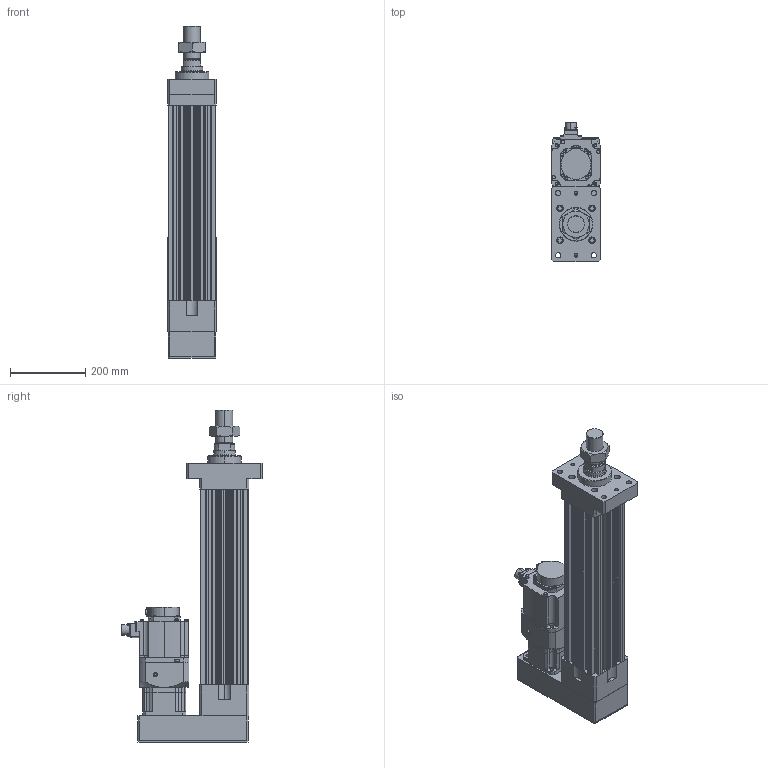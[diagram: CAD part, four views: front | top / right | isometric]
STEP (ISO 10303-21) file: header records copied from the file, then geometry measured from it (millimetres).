
FILE_DESCRIPTION (( 'STEP AP203' ), '1' );
FILE_NAME ('HES130NS(FS)(HS)-P300-W015G00-M-FMB.STEP', '2023-01-29T05:21:22', ( 'tms' ), ( '' ), 'SwSTEP 2.0', 'SolidWorks 2013', '' );
FILE_SCHEMA (( 'CONFIG_CONTROL_DESIGN' ));
Length unit declared in the file: millimetre
Products named in the file (8): M45X1.5P; HG-SR152; HES130-P300-G120-FMB; HES130 ROD M ST300; HES130NS(FS)(HS)-P300-W015G00-M-FMB; AB1151; AB115-003[HG-SR152]; P0401400706
Assembly tree (7 placements, depth 3):
  HES130NS(FS)(HS)-P300-W015G00-M-FMB
    HES130-P300-G120-FMB
    HES130 ROD M ST300
    M45X1.5P
    AB115-003[HG-SR152]
      AB1151
      P0401400706
    HG-SR152
Bounding box: 130 x 372.49 x 882 mm (x, y, z)
Volume: 10837428.1 mm3; surface area: 1246931.5 mm2
Topology: 4 solids, 11 shells, 1082 faces, 2768 edges, 1799 vertices
Faces by surface type: cylinder 513, plane 489, cone 68, bspline 8, torus 4
Entity records: 34626 total; most frequent: CARTESIAN_POINT 6632, DIRECTION 5993, ORIENTED_EDGE 5484, EDGE_CURVE 2752, AXIS2_PLACEMENT_3D 2228, VERTEX_POINT 1799, VECTOR 1537, LINE 1537
